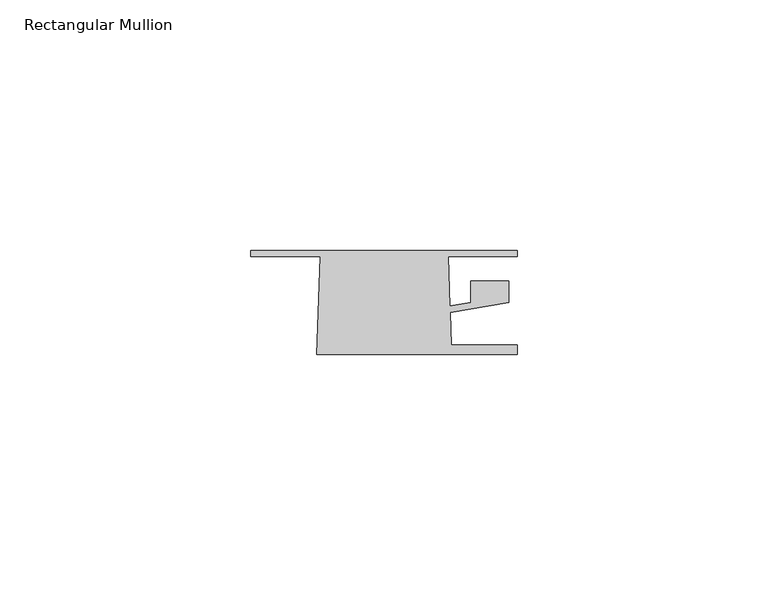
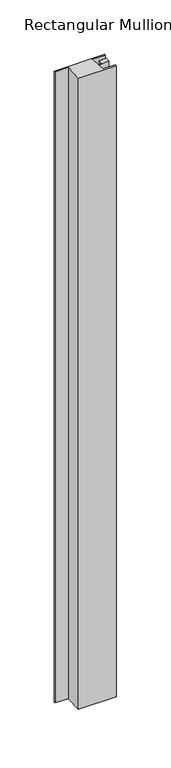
"""IFC4 building model written with IfcOpenShell, lengths in millimetres: member geometry, Rectangular Mullion : QuickPanel-Absolute_Projecting-Window-Jamb-Trim-Left."""

from ifc_helpers import new_model, si_unit, frame, origin, place, context, project, spatial, polyline, outline, extrude, source, transform, mapped, element, save


def rectangular_mullion_1c477761(model_context):
    return source(origin(), model_context, "Body", "SweptSolid", [
        extrude(outline(polyline([(-13.4553134, -8.6293878), (-12.7722714, 10.9303752), (-26.6286248, 10.9303752), (-26.6286248, 12.1803727), (26.5896522, 12.1803727), (26.5896522, 10.9303752), (12.7595465, 10.9303752), (13.1035451, 1.0795423), (17.2623469, 1.7924942), (17.2623469, 6.096), (24.8382072, 6.096), (24.8382072, 1.8027151), (13.1482736, -0.2013141), (13.3749872, -6.6935423), (26.5896522, -6.6935423), (26.5896522, -8.6293878), (-13.4553134, -8.6293878)])), frame((0.0, 0.0, -706.9772532), z_axis=(0.0, 0.0, 1.0), x_axis=(1.0, 0.0, 0.0)), (0.0, 0.0, 1.0), 706.9772532),
    ])


if __name__ == "__main__":
    model = new_model("IFC4")
    model_context = context("Model", 3, world=origin())
    ifc_project = project(units=[si_unit("LENGTHUNIT", "METRE", prefix="MILLI")], contexts=[model_context])
    site = spatial("IfcSite", under=ifc_project)
    building = spatial("IfcBuilding", under=site)
    placement = place(None, origin())
    rectangular_mullion_shape = rectangular_mullion_1c477761(model_context)
    element("IfcMember", 1, ObjectType="Rectangular Mullion : QuickPanel-Absolute_Projecting-Window-Jamb-Trim-Left", at=placement, inside=building, context=model_context, shape_type="MappedRepresentation", body=[
        mapped(rectangular_mullion_shape, transform((0.0, 0.0, 0.0), x_axis=(1.0, 0.0, 0.0), y_axis=(0.0, 1.0, 0.0), z_axis=(0.0, 0.0, 1.0))),
    ])
    save(model, "model.ifc")
